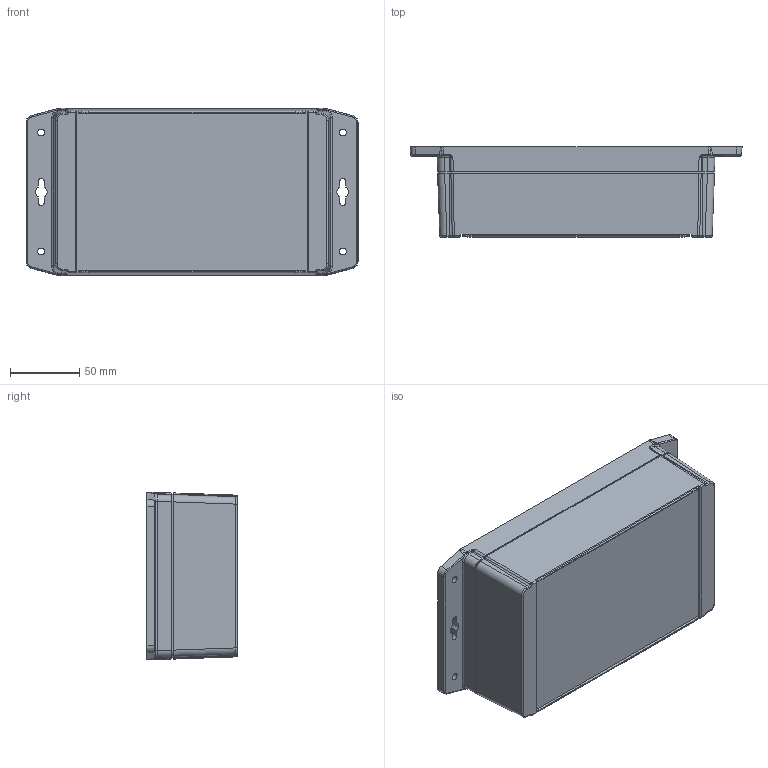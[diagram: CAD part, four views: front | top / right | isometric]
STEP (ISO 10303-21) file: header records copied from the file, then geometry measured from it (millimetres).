
FILE_DESCRIPTION(/* description */ (''),/* implementation_level */ '2;1');
FILE_NAME(/* name */ '1555UF42.stp',/* time_stamp */ '2025-02-04T14:44:36-05:00',/* author */ ('mbeerman'),/* organization */ (''),/* preprocessor_version */ 'ST-DEVELOPER v20',/* originating_system */ 'Autodesk Inventor 2024',/* authorisation */ '');
FILE_SCHEMA (('AUTOMOTIVE_DESIGN { 1 0 10303 214 3 1 1 }'));
Products named in the file (6): 1555UF42; 1555UF42 Box; 1555RF17 Lid v2 (2 gates); SC576 (screw M4-0.7X 20mm PN); 1554U GASKET; Insert
Assembly tree (11 placements, depth 2):
  1555UF42
    1555UF42 Box
    1555RF17 Lid v2 (2 gates)
    SC576 (screw M4-0.7X 20mm PN)  x4
    1554U GASKET
    Insert  x4
Bounding box: 240 x 65.2 x 121.26 mm (x, y, z)
Volume: 327244.1 mm3; surface area: 206829.3 mm2
Topology: 11 solids, 11 shells, 1867 faces, 4593 edges, 2873 vertices
Faces by surface type: plane 813, bspline 358, cylinder 298, cone 234, torus 116, sphere 48
Full cylindrical faces by diameter (mm): 1.823 x1, 2.482 x1, 3.251 x4, 3.5 x4, 3.88 x4, 5.334 x4, 5.537 x8, 5.664 x4, 6.35 x8, 7 x4, 10 x1
Entity records: 57853 total; most frequent: CARTESIAN_POINT 18044, ORIENTED_EDGE 8544, DIRECTION 7592, EDGE_CURVE 4272, VERTEX_POINT 2678, AXIS2_PLACEMENT_3D 2634, LINE 2324, VECTOR 2324
